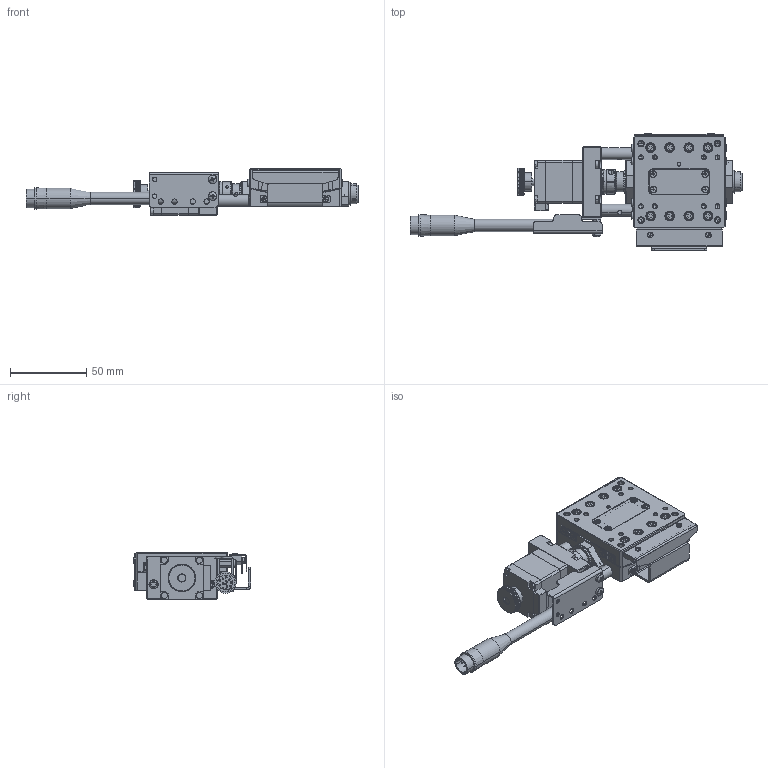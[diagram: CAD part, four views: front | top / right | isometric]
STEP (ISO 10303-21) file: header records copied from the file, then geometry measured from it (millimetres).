
FILE_DESCRIPTION (( 'STEP AP203' ), '1' );
FILE_NAME ('DGB60100-L1PC-L.STEP', '2021-08-21T08:52:06', ( '' ), ( '' ), 'SwSTEP 2.0', 'SolidWorks 2018', '' );
FILE_SCHEMA (( 'CONFIG_CONTROL_DESIGN' ));
Products named in the file (1): DGB60100-L1PC-L
Bounding box: 217.08 x 76.71 x 30.5 mm (x, y, z)
Volume: 128033.8 mm3; surface area: 69374.5 mm2
Topology: 24 solids, 128 shells, 4065 faces, 10111 edges, 6360 vertices
Faces by surface type: plane 2070, cylinder 1157, cone 376, torus 212, bspline 206, sphere 44
Entity records: 138529 total; most frequent: CARTESIAN_POINT 42844, ORIENTED_EDGE 19762, DIRECTION 19670, EDGE_CURVE 9881, AXIS2_PLACEMENT_3D 6984, VERTEX_POINT 6334, LINE 5702, VECTOR 5702
